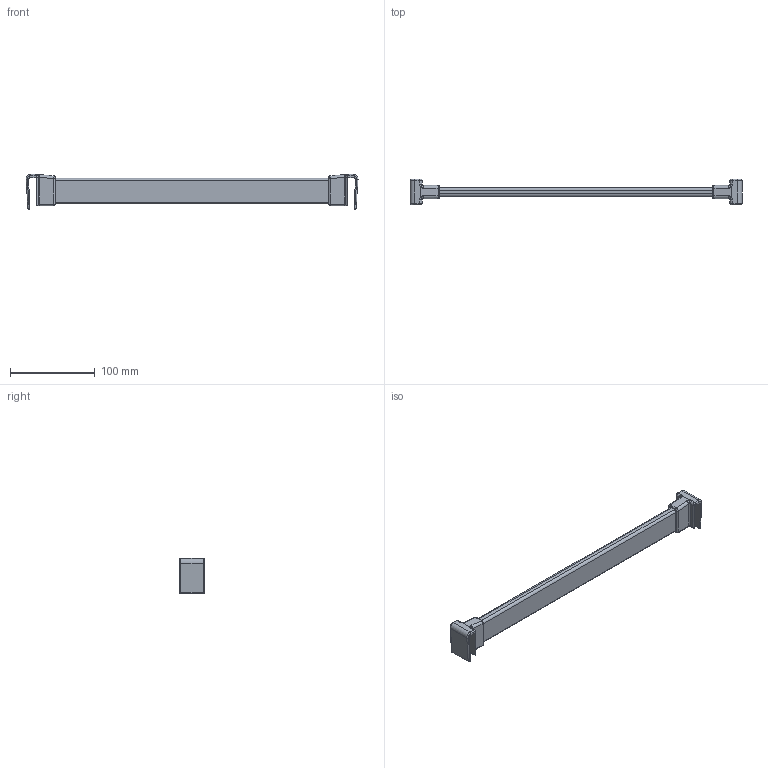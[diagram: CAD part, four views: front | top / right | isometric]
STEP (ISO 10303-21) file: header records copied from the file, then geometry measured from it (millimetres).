
FILE_DESCRIPTION (( 'STEP AP214' ), '1' );
FILE_NAME ('_Querreling_KAB-450_KS-16_P602_Glashalter.step', '2010-08-26T14:59:28', ( 'grass' ), ( '' ), 'SwSTEP 2.0', 'SolidWorks 2009', '' );
FILE_SCHEMA (( 'AUTOMOTIVE_DESIGN' ));
Length unit declared in the file: millimetre
Products named in the file (1): _Querreling_KAB-450_KS-16_P602_Glashalter
Bounding box: 390.78 x 30 x 41.5 mm (x, y, z)
Volume: 134489.6 mm3; surface area: 38844.3 mm2
Topology: 1 solids, 1 shells, 124 faces, 300 edges, 176 vertices
Faces by surface type: cylinder 58, plane 34, torus 16, bspline 12, sphere 4
Entity records: 5090 total; most frequent: CARTESIAN_POINT 2269, ORIENTED_EDGE 592, DIRECTION 590, EDGE_CURVE 296, AXIS2_PLACEMENT_3D 225, VERTEX_POINT 176, VECTOR 140, LINE 140
